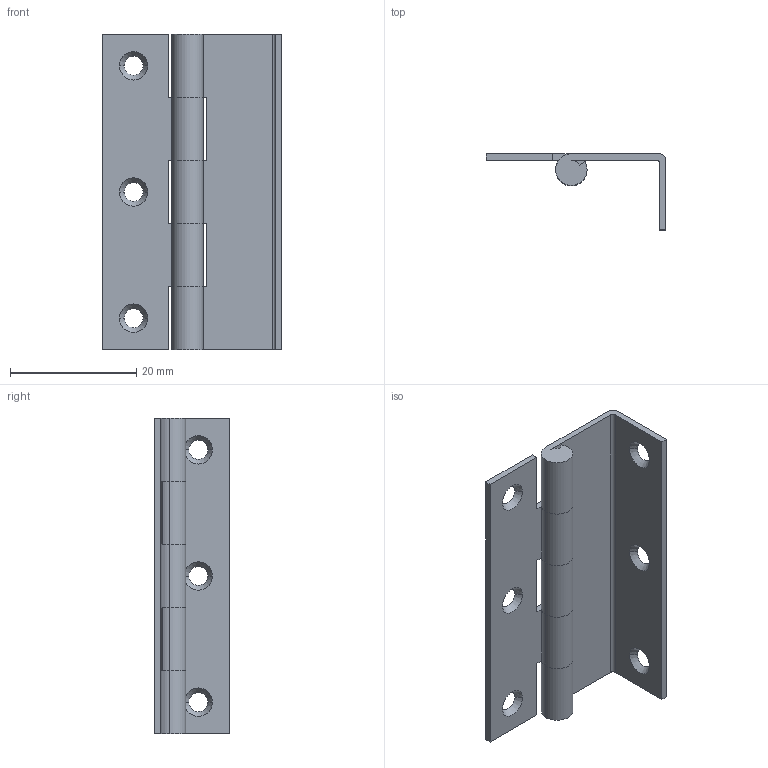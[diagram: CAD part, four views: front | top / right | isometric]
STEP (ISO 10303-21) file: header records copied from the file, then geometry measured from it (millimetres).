
FILE_DESCRIPTION((''),'2;1');
FILE_NAME('6033.01.stp','2015-07-17T14:36:00',(''),(''),'Mechanical Desktop 2006','Mechanical Desktop 2006',', , ');
FILE_SCHEMA(('CONFIG_CONTROL_DESIGN'));
Length unit declared in the file: millimetre
Products named in the file (1): 6033.01
Bounding box: 28.5 x 12 x 50 mm (x, y, z)
Volume: 2625.1 mm3; surface area: 5028.8 mm2
Topology: 2 solids, 2 shells, 68 faces, 204 edges, 136 vertices
Faces by surface type: plane 30, cylinder 26, cone 12
Entity records: 2457 total; most frequent: DIRECTION 426, CARTESIAN_POINT 409, ORIENTED_EDGE 408, EDGE_CURVE 204, AXIS2_PLACEMENT_3D 153, VERTEX_POINT 136, VECTOR 120, LINE 120
